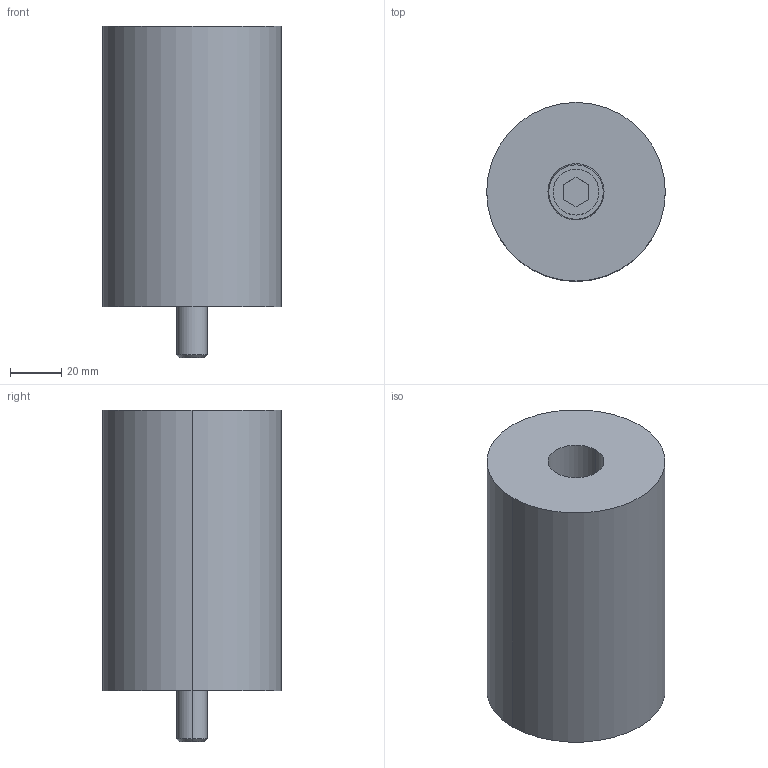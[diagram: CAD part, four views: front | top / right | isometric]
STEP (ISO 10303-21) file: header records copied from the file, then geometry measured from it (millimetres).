
FILE_DESCRIPTION(/* description */ (''),/* implementation_level */ '2;1');
FILE_NAME(/* name */ '3d_esbt7022110_07003_r00.stp',/* time_stamp */ '2011-01-10T14:15:39+09:00',/* author */ ('MISUMI'),/* organization */ (''),/* preprocessor_version */ 'ST-DEVELOPER v11',/* originating_system */ 'UGS - NX 5.0',/* authorisation */ '');
FILE_SCHEMA (('CONFIG_CONTROL_DESIGN'));
Length unit declared in the file: millimetre
Products named in the file (1): 3d_esbt7022110_07003_r00
Bounding box: 70 x 70 x 130 mm (x, y, z)
Volume: 401152.2 mm3; surface area: 46872.9 mm2
Topology: 3 solids, 3 shells, 35 faces, 72 edges, 46 vertices
Faces by surface type: plane 15, cylinder 14, cone 6
Entity records: 1022 total; most frequent: DIRECTION 178, CARTESIAN_POINT 154, ORIENTED_EDGE 144, EDGE_CURVE 72, AXIS2_PLACEMENT_3D 70, VERTEX_POINT 46, EDGE_LOOP 42, LINE 38
